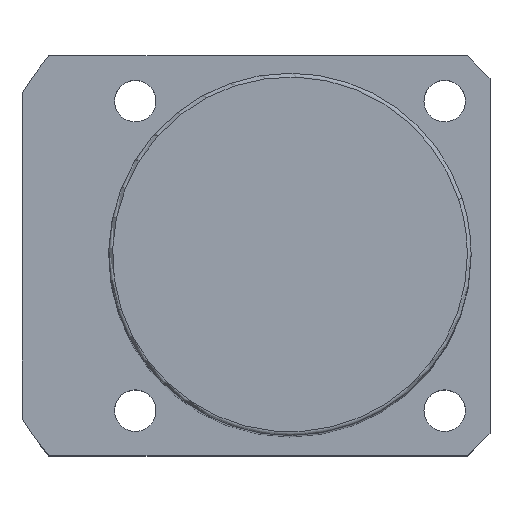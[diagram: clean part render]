
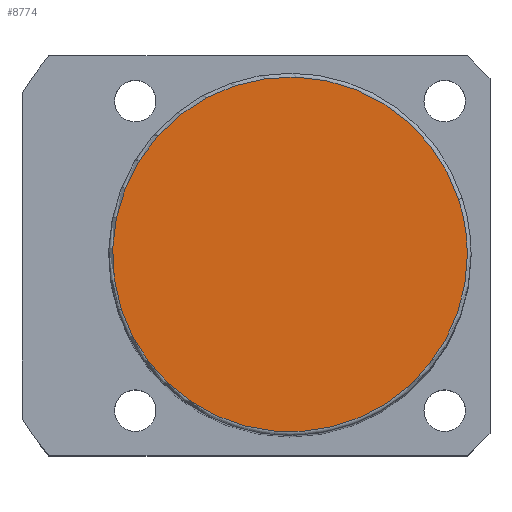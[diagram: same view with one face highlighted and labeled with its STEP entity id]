
A CAD part, top view. The second image highlights one B-rep face of the part: STEP entity #8774.
In plain terms, the highlighted planar face has unit normal (0, 0, 1).
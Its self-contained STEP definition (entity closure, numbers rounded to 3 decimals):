
#8707=CARTESIAN_POINT('',(22.35,7.262,124.0));
#8708=VERTEX_POINT('',#8707);
#8726=CARTESIAN_POINT('',(-22.35,-7.262,124.0));
#8727=VERTEX_POINT('',#8726);
#8735=CARTESIAN_POINT('',(0.0,0.0,124.0));
#8736=DIRECTION('',(0.0,0.0,1.0));
#8737=DIRECTION('',(1.0,0.0,0.0));
#8738=AXIS2_PLACEMENT_3D('',#8735,#8736,#8737);
#8739=CIRCLE('',#8738,23.5);
#8740=EDGE_CURVE('no 4101',#8708,#8727,#8739,.T.);
#8750=CARTESIAN_POINT('',(23.5,0.0,124.0));
#8751=VERTEX_POINT('',#8750);
#8752=CARTESIAN_POINT('',(0.0,0.0,124.0));
#8753=DIRECTION('',(0.0,0.0,1.0));
#8754=DIRECTION('',(1.0,0.0,0.0));
#8755=AXIS2_PLACEMENT_3D('',#8752,#8753,#8754);
#8756=CIRCLE('',#8755,23.5);
#8757=EDGE_CURVE('no 4110',#8751,#8708,#8756,.T.);
#8758=ORIENTED_EDGE('',*,*,#8757,.T.);
#8759=ORIENTED_EDGE('',*,*,#8740,.T.);
#8760=CARTESIAN_POINT('',(0.0,0.0,124.0));
#8761=DIRECTION('',(0.0,0.0,1.0));
#8762=DIRECTION('',(1.0,0.0,0.0));
#8763=AXIS2_PLACEMENT_3D('',#8760,#8761,#8762);
#8764=CIRCLE('',#8763,23.5);
#8765=EDGE_CURVE('no 4116',#8727,#8751,#8764,.T.);
#8766=ORIENTED_EDGE('',*,*,#8765,.T.);
#8767=EDGE_LOOP('',(#8758,#8759,#8766));
#8768=FACE_OUTER_BOUND('',#8767,.T.);
#8769=CARTESIAN_POINT('',(0.0,0.0,124.0));
#8770=DIRECTION('',(0.0,0.0,1.0));
#8771=DIRECTION('',(1.0,0.0,0.0));
#8772=AXIS2_PLACEMENT_3D('',#8769,#8770,#8771);
#8773=PLANE('',#8772);
#8774=ADVANCED_FACE('no 4103',(#8768),#8773,.T.);
